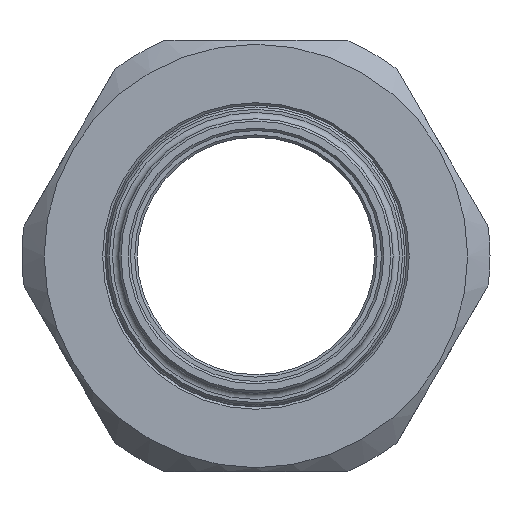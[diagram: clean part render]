
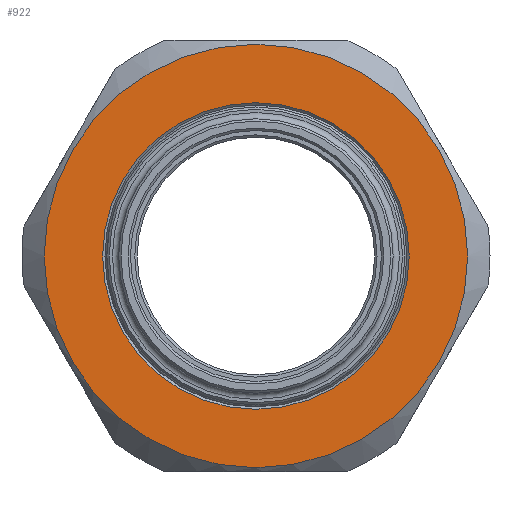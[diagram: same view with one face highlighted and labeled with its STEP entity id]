
A CAD part, left-side view. The second image highlights one B-rep face of the part: STEP entity #922.
In plain terms, the highlighted planar face has unit normal (-1, 0, 0).
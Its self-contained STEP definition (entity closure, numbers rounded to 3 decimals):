
#38=FACE_BOUND('',#179,.T.);
#89=PLANE('',#1076);
#121=FACE_OUTER_BOUND('',#178,.T.);
#178=EDGE_LOOP('',(#714));
#179=EDGE_LOOP('',(#715));
#329=CIRCLE('',#1056,27.);
#339=CIRCLE('',#1075,19.55);
#415=VERTEX_POINT('',#1591);
#424=VERTEX_POINT('',#1626);
#518=EDGE_CURVE('',#415,#415,#329,.T.);
#532=EDGE_CURVE('',#424,#424,#339,.T.);
#714=ORIENTED_EDGE('',*,*,#518,.T.);
#715=ORIENTED_EDGE('',*,*,#532,.F.);
#922=ADVANCED_FACE('',(#121,#38),#89,.T.);
#1056=AXIS2_PLACEMENT_3D('',#1593,#1235,#1236);
#1075=AXIS2_PLACEMENT_3D('',#1627,#1276,#1277);
#1076=AXIS2_PLACEMENT_3D('',#1629,#1279,#1280);
#1235=DIRECTION('center_axis',(-1.,0.,0.));
#1236=DIRECTION('ref_axis',(0.,1.,0.));
#1276=DIRECTION('center_axis',(-1.,0.,0.));
#1277=DIRECTION('ref_axis',(0.,0.,-1.));
#1279=DIRECTION('center_axis',(-1.,0.,0.));
#1280=DIRECTION('ref_axis',(0.,0.,1.));
#1591=CARTESIAN_POINT('',(-21.,-27.,0.));
#1593=CARTESIAN_POINT('Origin',(-21.,0.,0.));
#1626=CARTESIAN_POINT('',(-21.,0.,19.55));
#1627=CARTESIAN_POINT('Origin',(-21.,0.,0.));
#1629=CARTESIAN_POINT('Origin',(-21.,0.,0.));
